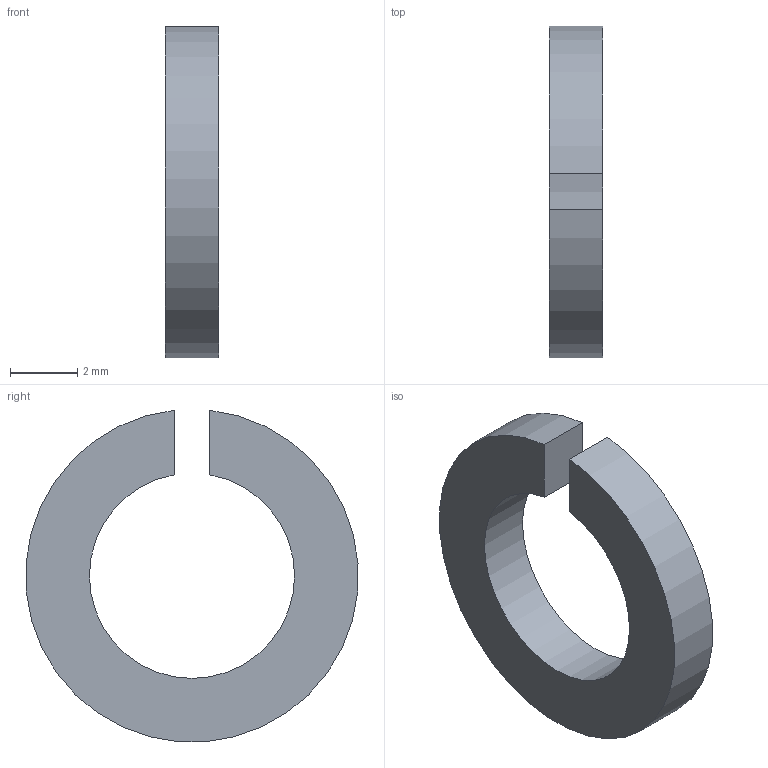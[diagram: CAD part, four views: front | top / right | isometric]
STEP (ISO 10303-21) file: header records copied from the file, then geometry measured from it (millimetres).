
FILE_DESCRIPTION (( 'STEP AP203' ), '1' );
FILE_NAME ('027 Rondelle Elastique.STEP', '2021-10-27T18:26:39', ( '' ), ( '' ), 'SwSTEP 2.0', 'SolidWorks 2019', '' );
FILE_SCHEMA (( 'CONFIG_CONTROL_DESIGN' ));
Length unit declared in the file: millimetre
Products named in the file (1): 027 Rondelle Elastique
Bounding box: 1.6 x 9.87 x 9.85 mm (x, y, z)
Volume: 73.2 mm3; surface area: 174.6 mm2
Topology: 1 solids, 1 shells, 6 faces, 12 edges, 8 vertices
Faces by surface type: plane 4, cylinder 2
Entity records: 237 total; most frequent: DIRECTION 30, CARTESIAN_POINT 27, ORIENTED_EDGE 24, EDGE_CURVE 12, AXIS2_PLACEMENT_3D 11, PERSON_AND_ORGANIZATION 8, VECTOR 8, VERTEX_POINT 8
